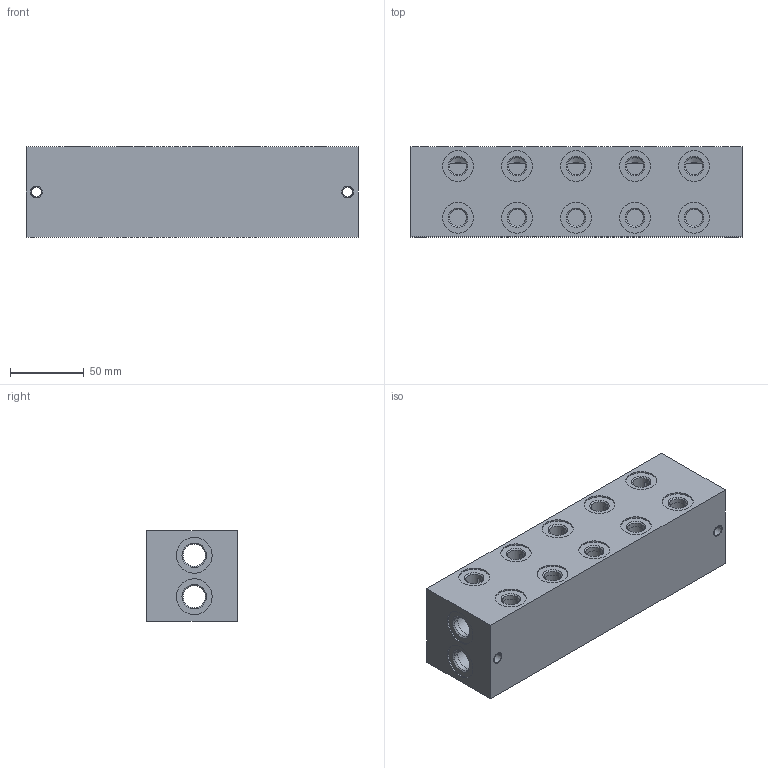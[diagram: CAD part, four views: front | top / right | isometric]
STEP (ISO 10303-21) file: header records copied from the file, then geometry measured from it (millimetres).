
FILE_DESCRIPTION((''),'2;1');
FILE_NAME('760_6850','2015-11-27T',('Ahcz.brigadnik05'),(''),'PRO/ENGINEER BY PARAMETRIC TECHNOLOGY CORPORATION, 2015110','PRO/ENGINEER BY PARAMETRIC TECHNOLOGY CORPORATION, 2015110','');
FILE_SCHEMA(('AUTOMOTIVE_DESIGN { 1 0 10303 214 1 1 1 1 }'));
Length unit declared in the file: millimetre
Products named in the file (1): 760_6850
Bounding box: 225 x 61 x 61 mm (x, y, z)
Volume: 318630.3 mm3; surface area: 126914.3 mm2
Topology: 1 solids, 37 shells, 329 faces, 1736 edges, 1667 vertices
Faces by surface type: cylinder 227, plane 66, cone 36
Entity records: 19069 total; most frequent: CARTESIAN_POINT 3936, DIRECTION 2830, ORIENTED_EDGE 1674, VECTOR 1142, LINE 1142, EDGE_CURVE 909, AXIS2_PLACEMENT_3D 844, TRIMMED_CURVE 826
